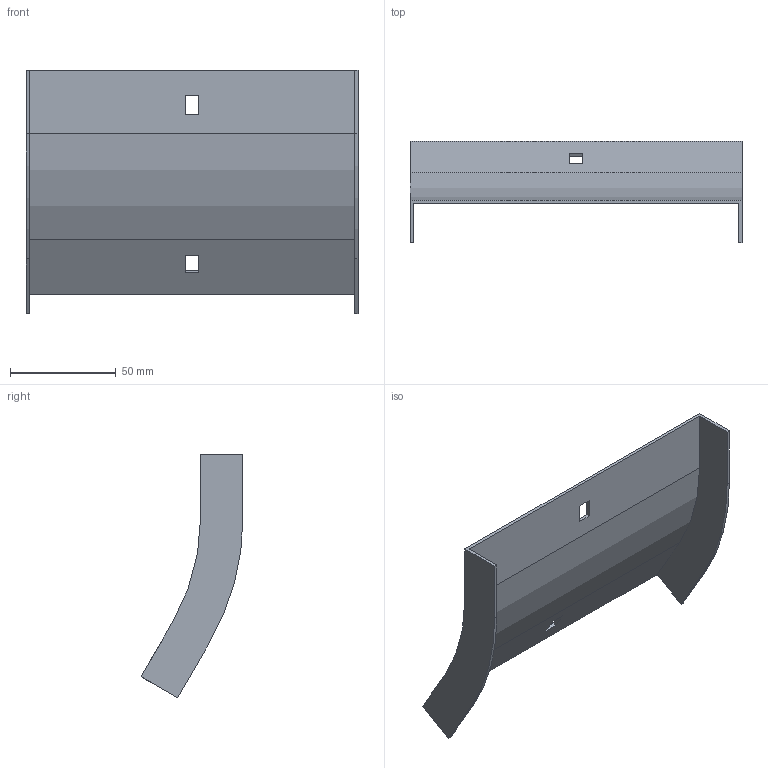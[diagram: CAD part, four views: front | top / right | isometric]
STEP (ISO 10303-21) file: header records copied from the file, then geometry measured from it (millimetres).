
FILE_DESCRIPTION (( 'STEP AP214' ), '1' );
FILE_NAME ('32G1P150.step', '2025-02-21T12:46:58', ( '' ), ( '' ), 'SwSTEP 2.0', 'SolidWorks 2023', '' );
FILE_SCHEMA (( 'AUTOMOTIVE_DESIGN' ));
Length unit declared in the file: millimetre
Products named in the file (1): 32G1P150
Bounding box: 157 x 48.2 x 115.23 mm (x, y, z)
Volume: 32697.5 mm3; surface area: 44636.7 mm2
Topology: 1 solids, 1 shells, 26 faces, 72 edges, 48 vertices
Faces by surface type: plane 22, cylinder 4
Entity records: 855 total; most frequent: CARTESIAN_POINT 147, ORIENTED_EDGE 144, DIRECTION 134, EDGE_CURVE 72, LINE 64, VECTOR 64, VERTEX_POINT 48, AXIS2_PLACEMENT_3D 35
